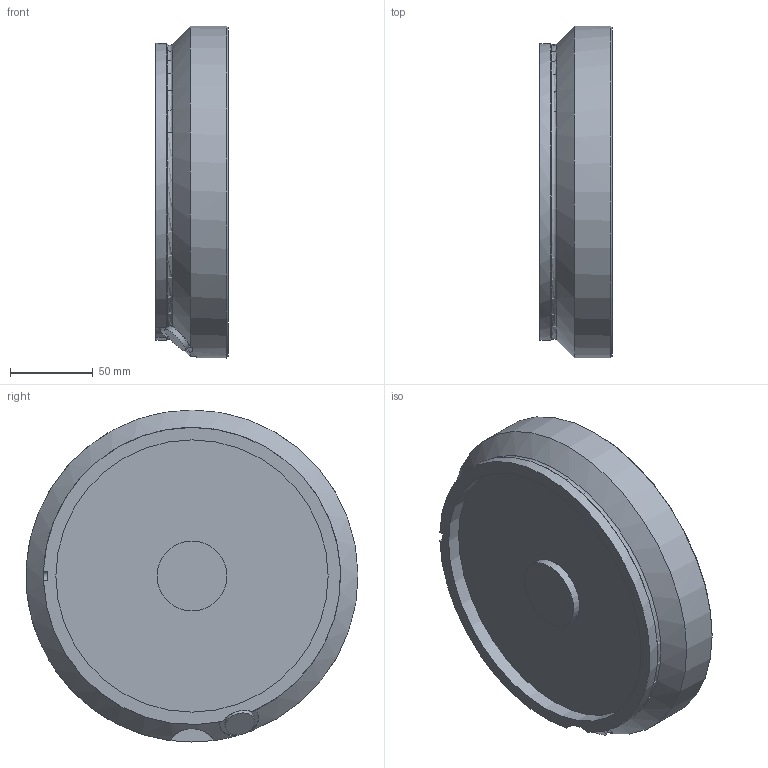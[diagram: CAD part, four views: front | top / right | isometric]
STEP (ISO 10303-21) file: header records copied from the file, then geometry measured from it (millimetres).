
FILE_DESCRIPTION (( 'STEP AP214' ), '1' );
FILE_NAME ('IRB6750S_350kg-320_OC_02_LINK06_CAD.step', '2026-05-07T13:40:08', ( '' ), ( '' ), 'SwSTEP 2.0', 'SolidWorks 2024', '' );
FILE_SCHEMA (( 'AUTOMOTIVE_DESIGN' ));
Length unit declared in the file: millimetre
Products named in the file (1): IRB6750S_350kg-320_OC_02_LINK06_CAD
Bounding box: 43.5 x 200 x 200 mm (x, y, z)
Volume: 830053.7 mm3; surface area: 123360.7 mm2
Topology: 1 solids, 1 shells, 171 faces, 345 edges, 222 vertices
Faces by surface type: cylinder 78, plane 59, cone 33, torus 1
Full cylindrical faces by diameter (mm): 10.2 x11, 12 x1, 16.27 x21, 17 x21, 17.9 x1, 42 x1, 164 x1, 200 x1
Entity records: 4157 total; most frequent: CARTESIAN_POINT 832, DIRECTION 751, ORIENTED_EDGE 496, AXIS2_PLACEMENT_3D 345, EDGE_LOOP 300, EDGE_CURVE 248, FACE_OUTER_BOUND 229, VERTEX_POINT 208
